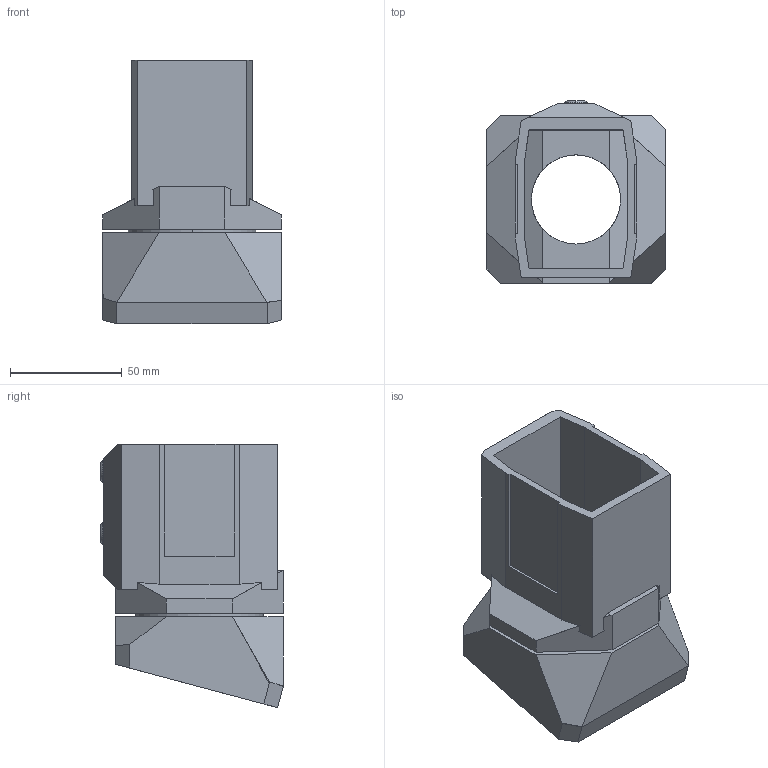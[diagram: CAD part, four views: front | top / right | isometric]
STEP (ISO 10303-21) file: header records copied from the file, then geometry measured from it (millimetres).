
FILE_DESCRIPTION (( 'STEP AP214' ), '1' );
FILE_NAME ('ccs2fc15lg.STEP', '2007-06-25T15:23:01', ( '' ), ( '' ), 'SwSTEP 2.0', 'SolidWorks 2007', '' );
FILE_SCHEMA (( 'AUTOMOTIVE_DESIGN' ));
Length unit declared in the file: inch
Products named in the file (4): ccs2fc15lg; ccs2fc15lg_transition; tube_profile
Assembly tree (3 placements, depth 2):
  ccs2fc15lg
    tube_profile
    ccs2fc15lg
    ccs2fc15lg_transition
Bounding box: 80 x 81.64 x 117.73 mm (x, y, z)
Volume: 446582.9 mm3; surface area: 129437.2 mm2
Topology: 3 solids, 3 shells, 232 faces, 579 edges, 378 vertices
Faces by surface type: plane 180, cylinder 44, cone 8
Entity records: 6974 total; most frequent: CARTESIAN_POINT 1219, ORIENTED_EDGE 1158, DIRECTION 1143, EDGE_CURVE 579, VECTOR 475, LINE 475, VERTEX_POINT 378, AXIS2_PLACEMENT_3D 334
